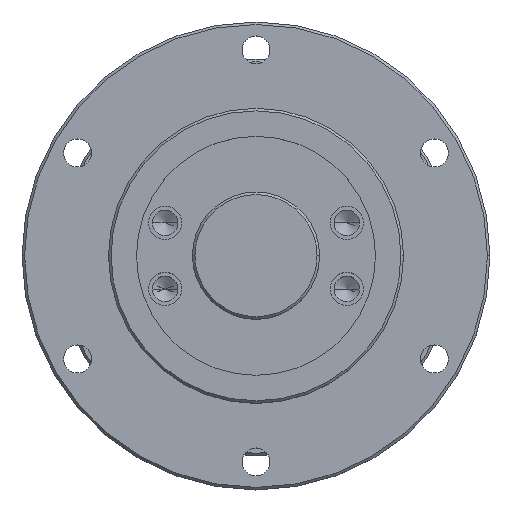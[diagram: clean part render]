
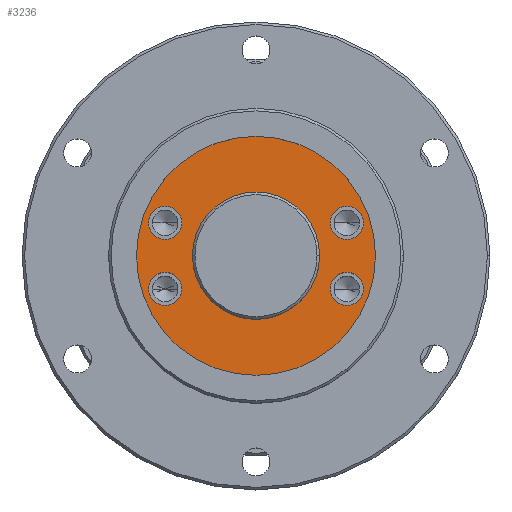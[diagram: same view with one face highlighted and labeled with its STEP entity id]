
A CAD part, top view. The second image highlights one B-rep face of the part: STEP entity #3236.
In plain terms, the highlighted planar face has unit normal (0, 0, 1).
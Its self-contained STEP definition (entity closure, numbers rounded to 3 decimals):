
#29 = AXIS2_PLACEMENT_3D ( 'NONE', #461, #3564, #931 ) ;
#64 = CARTESIAN_POINT ( 'NONE',  ( 17.854, -6.498, 0. ) ) ;
#78 = ORIENTED_EDGE ( 'NONE', *, *, #3324, .T. ) ;
#235 = ORIENTED_EDGE ( 'NONE', *, *, #3576, .F. ) ;
#297 = AXIS2_PLACEMENT_3D ( 'NONE', #1114, #4187, #1549 ) ;
#311 = CIRCLE ( 'NONE', #669, 3.25 ) ;
#335 = CARTESIAN_POINT ( 'NONE',  ( 0., 0., 0. ) ) ;
#410 = CARTESIAN_POINT ( 'NONE',  ( -23.5, 0., 0. ) ) ;
#423 = DIRECTION ( 'NONE',  ( 0., 0., 1. ) ) ;
#429 = DIRECTION ( 'NONE',  ( 1., 0., 0. ) ) ;
#461 = CARTESIAN_POINT ( 'NONE',  ( 0., 0., 0. ) ) ;
#516 = EDGE_CURVE ( 'NONE', #3531, #518, #5231, .T. ) ;
#518 = VERTEX_POINT ( 'NONE', #5517 ) ;
#522 = DIRECTION ( 'NONE',  ( 1., 0., 0. ) ) ;
#585 = DIRECTION ( 'NONE',  ( 0., 0., 1. ) ) ;
#639 = CARTESIAN_POINT ( 'NONE',  ( -17.854, 6.498, 0. ) ) ;
#669 = AXIS2_PLACEMENT_3D ( 'NONE', #5729, #3089, #429 ) ;
#758 = ORIENTED_EDGE ( 'NONE', *, *, #5169, .F. ) ;
#787 = DIRECTION ( 'NONE',  ( 1., 0., 0. ) ) ;
#793 = EDGE_CURVE ( 'NONE', #2896, #4091, #1732, .T. ) ;
#814 = FACE_BOUND ( 'NONE', #2720, .T. ) ;
#931 = DIRECTION ( 'NONE',  ( 1., 0., 0. ) ) ;
#950 = CARTESIAN_POINT ( 'NONE',  ( -21.104, 6.498, 0. ) ) ;
#1005 = EDGE_CURVE ( 'NONE', #5514, #2411, #4431, .T. ) ;
#1049 = EDGE_LOOP ( 'NONE', ( #4432, #3398 ) ) ;
#1078 = DIRECTION ( 'NONE',  ( 1., 0., 0. ) ) ;
#1114 = CARTESIAN_POINT ( 'NONE',  ( 17.854, -6.498, 0. ) ) ;
#1131 = CARTESIAN_POINT ( 'NONE',  ( -14.604, -6.498, 0. ) ) ;
#1197 = CARTESIAN_POINT ( 'NONE',  ( 23.5, 0., 0. ) ) ;
#1218 = CARTESIAN_POINT ( 'NONE',  ( -14.604, 6.498, 0. ) ) ;
#1294 = VERTEX_POINT ( 'NONE', #4846 ) ;
#1501 = EDGE_CURVE ( 'NONE', #518, #3531, #3490, .T. ) ;
#1544 = ORIENTED_EDGE ( 'NONE', *, *, #4234, .F. ) ;
#1549 = DIRECTION ( 'NONE',  ( 1., 0., 0. ) ) ;
#1610 = AXIS2_PLACEMENT_3D ( 'NONE', #4516, #1865, #4932 ) ;
#1681 = AXIS2_PLACEMENT_3D ( 'NONE', #2310, #5396, #2762 ) ;
#1732 = CIRCLE ( 'NONE', #1681, 12.5 ) ;
#1742 = EDGE_LOOP ( 'NONE', ( #758, #4704 ) ) ;
#1865 = DIRECTION ( 'NONE',  ( 0., 0., 1. ) ) ;
#1979 = ORIENTED_EDGE ( 'NONE', *, *, #4200, .F. ) ;
#1997 = FACE_BOUND ( 'NONE', #1049, .T. ) ;
#2019 = CARTESIAN_POINT ( 'NONE',  ( -17.854, -6.498, 0. ) ) ;
#2060 = AXIS2_PLACEMENT_3D ( 'NONE', #4227, #5108, #2479 ) ;
#2238 = CARTESIAN_POINT ( 'NONE',  ( -17.854, 6.498, 0. ) ) ;
#2310 = CARTESIAN_POINT ( 'NONE',  ( 0., 0., 0. ) ) ;
#2367 = EDGE_LOOP ( 'NONE', ( #78, #4803 ) ) ;
#2399 = CIRCLE ( 'NONE', #5369, 3.25 ) ;
#2411 = VERTEX_POINT ( 'NONE', #1218 ) ;
#2462 = DIRECTION ( 'NONE',  ( 1., 0., 0. ) ) ;
#2479 = DIRECTION ( 'NONE',  ( -1., 0., 0. ) ) ;
#2584 = VERTEX_POINT ( 'NONE', #410 ) ;
#2616 = CIRCLE ( 'NONE', #4717, 23.5 ) ;
#2695 = DIRECTION ( 'NONE',  ( 1., 0., 0. ) ) ;
#2720 = EDGE_LOOP ( 'NONE', ( #1979, #235 ) ) ;
#2762 = DIRECTION ( 'NONE',  ( 1., 0., 0. ) ) ;
#2828 = CIRCLE ( 'NONE', #3313, 3.25 ) ;
#2896 = VERTEX_POINT ( 'NONE', #4276 ) ;
#2922 = VERTEX_POINT ( 'NONE', #1197 ) ;
#2949 = CARTESIAN_POINT ( 'NONE',  ( -21.104, -6.498, 0. ) ) ;
#3085 = CARTESIAN_POINT ( 'NONE',  ( 17.854, 6.498, 0. ) ) ;
#3089 = DIRECTION ( 'NONE',  ( 0., 0., 1. ) ) ;
#3147 = ORIENTED_EDGE ( 'NONE', *, *, #1005, .F. ) ;
#3158 = ORIENTED_EDGE ( 'NONE', *, *, #793, .F. ) ;
#3180 = DIRECTION ( 'NONE',  ( 0., 0., 1. ) ) ;
#3199 = FACE_BOUND ( 'NONE', #3812, .T. ) ;
#3236 = ADVANCED_FACE ( 'NONE', ( #3199, #5660, #4338, #1997, #814, #5390 ), #4665, .F. ) ;
#3241 = CARTESIAN_POINT ( 'NONE',  ( -17.854, -6.498, 0. ) ) ;
#3313 = AXIS2_PLACEMENT_3D ( 'NONE', #3241, #585, #3669 ) ;
#3324 = EDGE_CURVE ( 'NONE', #2922, #2584, #2616, .T. ) ;
#3398 = ORIENTED_EDGE ( 'NONE', *, *, #516, .F. ) ;
#3441 = DIRECTION ( 'NONE',  ( 0., 0., 1. ) ) ;
#3486 = CARTESIAN_POINT ( 'NONE',  ( 14.604, -6.498, 0. ) ) ;
#3490 = CIRCLE ( 'NONE', #5025, 3.25 ) ;
#3501 = CIRCLE ( 'NONE', #29, 12.5 ) ;
#3523 = DIRECTION ( 'NONE',  ( 1., 0., 0. ) ) ;
#3531 = VERTEX_POINT ( 'NONE', #3486 ) ;
#3564 = DIRECTION ( 'NONE',  ( 0., 0., 1. ) ) ;
#3576 = EDGE_CURVE ( 'NONE', #5320, #1294, #311, .T. ) ;
#3649 = CIRCLE ( 'NONE', #4605, 3.25 ) ;
#3669 = DIRECTION ( 'NONE',  ( 1., 0., 0. ) ) ;
#3714 = DIRECTION ( 'NONE',  ( 0., 0., 1. ) ) ;
#3812 = EDGE_LOOP ( 'NONE', ( #1544, #3158 ) ) ;
#4050 = CARTESIAN_POINT ( 'NONE',  ( 12.5, 0., 0. ) ) ;
#4071 = ORIENTED_EDGE ( 'NONE', *, *, #4435, .F. ) ;
#4085 = EDGE_CURVE ( 'NONE', #2584, #2922, #5376, .T. ) ;
#4091 = VERTEX_POINT ( 'NONE', #4050 ) ;
#4147 = AXIS2_PLACEMENT_3D ( 'NONE', #2019, #5096, #2462 ) ;
#4187 = DIRECTION ( 'NONE',  ( 0., 0., 1. ) ) ;
#4200 = EDGE_CURVE ( 'NONE', #1294, #5320, #3649, .T. ) ;
#4227 = CARTESIAN_POINT ( 'NONE',  ( 0., 23.5, 0. ) ) ;
#4234 = EDGE_CURVE ( 'NONE', #4091, #2896, #3501, .T. ) ;
#4276 = CARTESIAN_POINT ( 'NONE',  ( -12.5, 0., 0. ) ) ;
#4329 = CARTESIAN_POINT ( 'NONE',  ( 14.604, 6.498, 0. ) ) ;
#4338 = FACE_BOUND ( 'NONE', #1742, .T. ) ;
#4347 = EDGE_CURVE ( 'NONE', #5210, #5179, #2828, .T. ) ;
#4431 = CIRCLE ( 'NONE', #4654, 3.25 ) ;
#4432 = ORIENTED_EDGE ( 'NONE', *, *, #1501, .F. ) ;
#4435 = EDGE_CURVE ( 'NONE', #2411, #5514, #2399, .T. ) ;
#4516 = CARTESIAN_POINT ( 'NONE',  ( 0., 0., 0. ) ) ;
#4605 = AXIS2_PLACEMENT_3D ( 'NONE', #3085, #423, #3523 ) ;
#4654 = AXIS2_PLACEMENT_3D ( 'NONE', #2238, #5327, #2695 ) ;
#4665 = PLANE ( 'NONE',  #2060 ) ;
#4704 = ORIENTED_EDGE ( 'NONE', *, *, #4347, .F. ) ;
#4717 = AXIS2_PLACEMENT_3D ( 'NONE', #335, #3441, #787 ) ;
#4803 = ORIENTED_EDGE ( 'NONE', *, *, #4085, .T. ) ;
#4846 = CARTESIAN_POINT ( 'NONE',  ( 21.104, 6.498, 0. ) ) ;
#4932 = DIRECTION ( 'NONE',  ( 1., 0., 0. ) ) ;
#4961 = CIRCLE ( 'NONE', #4147, 3.25 ) ;
#5025 = AXIS2_PLACEMENT_3D ( 'NONE', #64, #3180, #522 ) ;
#5096 = DIRECTION ( 'NONE',  ( 0., 0., 1. ) ) ;
#5108 = DIRECTION ( 'NONE',  ( 0., 0., -1. ) ) ;
#5169 = EDGE_CURVE ( 'NONE', #5179, #5210, #4961, .T. ) ;
#5179 = VERTEX_POINT ( 'NONE', #1131 ) ;
#5210 = VERTEX_POINT ( 'NONE', #2949 ) ;
#5231 = CIRCLE ( 'NONE', #297, 3.25 ) ;
#5242 = EDGE_LOOP ( 'NONE', ( #4071, #3147 ) ) ;
#5320 = VERTEX_POINT ( 'NONE', #4329 ) ;
#5327 = DIRECTION ( 'NONE',  ( 0., 0., 1. ) ) ;
#5369 = AXIS2_PLACEMENT_3D ( 'NONE', #639, #3714, #1078 ) ;
#5376 = CIRCLE ( 'NONE', #1610, 23.5 ) ;
#5390 = FACE_OUTER_BOUND ( 'NONE', #2367, .T. ) ;
#5396 = DIRECTION ( 'NONE',  ( 0., 0., 1. ) ) ;
#5514 = VERTEX_POINT ( 'NONE', #950 ) ;
#5517 = CARTESIAN_POINT ( 'NONE',  ( 21.104, -6.498, 0. ) ) ;
#5660 = FACE_BOUND ( 'NONE', #5242, .T. ) ;
#5729 = CARTESIAN_POINT ( 'NONE',  ( 17.854, 6.498, 0. ) ) ;
